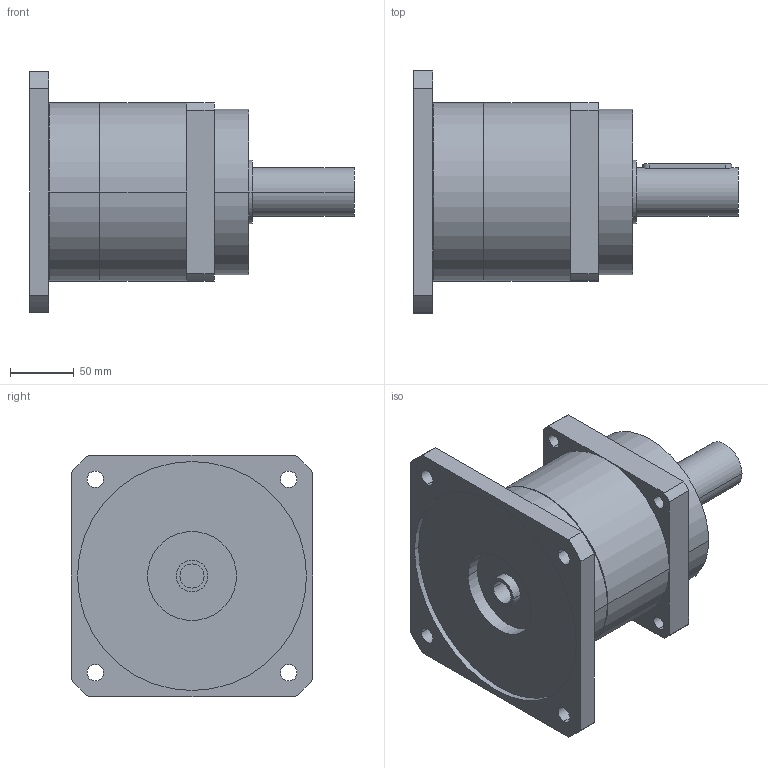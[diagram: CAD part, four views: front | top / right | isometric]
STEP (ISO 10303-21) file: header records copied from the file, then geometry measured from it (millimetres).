
FILE_DESCRIPTION(('CoCreate Modeling STEP Export'),'2;1');
FILE_NAME('GPR150_ig-3-4-5-7_38_B5_19_P06.stp','2014-08-19T16:42:08',(''),(''),'CoCreate Modeling STEP processor for AP214 (Solid Model)','CoCreate Modeling 16.00C 25-Feb-2009 (C) Parametric Technology GmbH','');
FILE_SCHEMA(('AUTOMOTIVE_DESIGN { 1 0 10303 214 1 1 1 1 }'));
Length unit declared in the file: millimetre
Products named in the file (2): GPR150_ig-3-4-5-7_38_B5_19_P06
Assembly tree (1 placements, depth 2):
  GPR150_ig-3-4-5-7_38_B5_19_P06
    GPR150_ig-3-4-5-7_38_B5_19_P06
Bounding box: 255 x 190 x 190 mm (x, y, z)
Volume: 2905667.3 mm3; surface area: 184068.5 mm2
Topology: 1 solids, 1 shells, 78 faces, 214 edges, 146 vertices
Faces by surface type: cylinder 46, plane 26, cone 6
Entity records: 2260 total; most frequent: ORIENTED_EDGE 424, CARTESIAN_POINT 421, DIRECTION 320, EDGE_CURVE 212, VERTEX_POINT 146, AXIS2_PLACEMENT_3D 117, EDGE_LOOP 104, VECTOR 86
